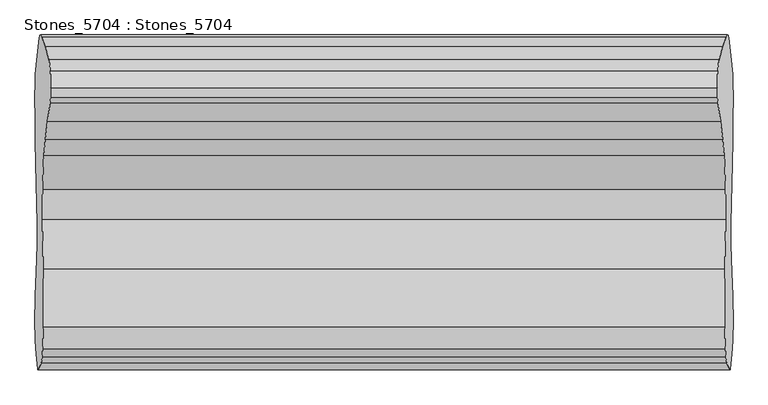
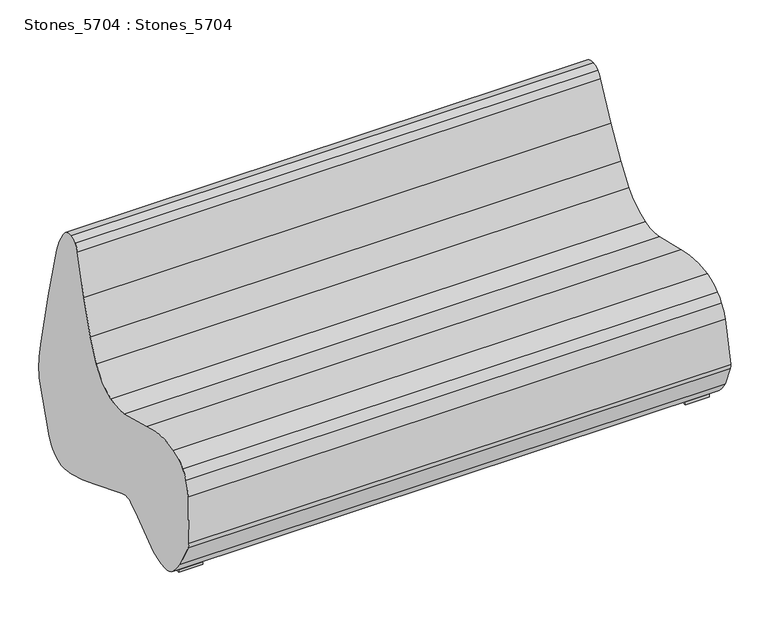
"""IFC4 building model written with IfcOpenShell, lengths in millimetres: furniture geometry, Stones_5704 : Stones_5704."""

from ifc_helpers import new_model, si_unit, frame, origin, origin_with_axes, place, context, project, spatial, polyline, ellipse_curve, outline, extrude, source, transform, mapped, element, save
from ifc_brep_helpers import plane_surface, cylinder_surface, revolved_surface, advanced_brep


def stones_5704_stones_5704_b2d92260(model_context):
    return source(origin(), model_context, "Body", "SolidModel", [
        advanced_brep(
        [(895.3110174, -89.4815743, 39.7011175), (895.8233895, -98.5477213, 29.9244759), (-895.8233895, -98.5477213, 29.9244759), (-895.3110174, -89.4815743, 39.7011175), (894.2904864, -76.3119844, 59.1740089), (-894.2904864, -76.3119844, 59.1740089), (886.0286103, -5.8199936, 216.8199959), (-886.0286103, -5.8199936, 216.8199959), (884.5680628, 0.0, 244.6889021), (-884.5680628, 0.0, 244.6889021), (880.1478804, -3.4330027, 329.0310064), (-880.1478804, -3.4330027, 329.0310064), (870.5753916, -30.0880254, 511.6849737), (-870.5753916, -30.0880254, 511.6849737), (861.4227412, -61.5019873, 686.3279474), (-861.4227412, -61.5019873, 686.3279474), (857.7210736, -90.9500081, 756.9599733), (-857.7210736, -90.9500081, 756.9599733), (856.513597, -134.8483783, 780.0), (-856.513597, -134.8483783, 780.0), (857.0881683, -159.273999, 769.0365254), (-857.0881683, -159.273999, 769.0365254), (858.2353507, -173.6870001, 747.1469822), (-858.2353507, -173.6870001, 747.1469822), (864.8943365, -221.2533235, 620.0859628), (-864.8943365, -221.2533235, 620.0859628), (870.5063431, -267.1055076, 513.0024987), (-870.5063431, -267.1055076, 513.0024987), (874.0739166, -308.3042284, 444.9291411), (-874.0739166, -308.3042284, 444.9291411), (877.5681088, -395.6820072, 378.2559814), (-877.5681088, -395.6820072, 378.2559814), (877.8416238, -473.037008, 373.0370049), (-877.8416238, -473.037008, 373.0370049), (876.1026296, -599.6220026, 406.2189912), (-876.1026296, -599.6220026, 406.2189912), (875.7171703, -749.4260037, 413.5739928), (-875.7171703, -749.4260037, 413.5739928), (877.3106294, -805.643993, 383.168981), (-877.3106294, -805.643993, 383.168981), (878.6924678, -825.7290327, 356.8019341), (-878.6924678, -825.7290327, 356.8019341), (881.1027502, -843.0850216, 310.8110066), (-881.1027502, -843.0850216, 310.8110066), (888.9563767, -860.0, 160.9548844), (-888.9563767, -860.0, 160.9548844), (889.8386269, -857.073153, 144.1205484), (-889.8386269, -857.073153, 144.1205484), (893.9128025, -819.9294051, 66.3806469), (-893.9128025, -819.9294051, 66.3806469), (896.2895288, -783.4470012, 21.0300072), (-896.2895288, -783.4470012, 21.0300072), (897.1718138, -739.5440124, 4.1950079), (-897.1718138, -739.5440124, 4.1950079), (896.2520049, -670.8280033, 21.746007), (-896.2520049, -670.8280033, 21.746007), (893.0613141, -575.6870128, 82.6280143), (-893.0613141, -575.6870128, 82.6280143), (891.7174739, -534.5275066, 108.2700129), (-891.7174739, -534.5275066, 108.2700129), (891.4466827, -504.6660086, 113.4370167), (-891.4466827, -504.6660086, 113.4370167), (891.6770162, -484.561163, 109.0419911), (-891.6770162, -484.561163, 109.0419911), (894.7945968, -330.1980137, 49.5550103), (-894.7945968, -330.1980137, 49.5550103), (896.8694213, -206.3195893, 9.9649997), (-896.8694213, -206.3195893, 9.9649997), (897.200074, -168.3434362, 3.6557696), (-897.200074, -168.3434362, 3.6557696)],
        [
            (0, 1, ellipse_curve(frame((892.1171071, -165.0055036, 100.6445574), z_axis=(-0.998629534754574, 0.0, -0.05233595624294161), x_axis=(0.05233595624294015, 0.0, -0.998629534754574)), 97.1793904, 97.0462094)),
            (1, 2),
            (2, 3, ellipse_curve(frame((-892.1171071, -165.0055036, 100.6445574), z_axis=(0.9986295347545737, 0.0, -0.052335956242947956), x_axis=(0.05233595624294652, 0.0, 0.9986295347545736)), 97.1793904, 97.0462094)),
            (3, 0),
            (4, 0, ellipse_curve(frame((890.7175279, -198.1002691, 127.3501177), z_axis=(-0.998629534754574, 0.0, -0.05233595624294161), x_axis=(0.05233595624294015, 0.0, -0.998629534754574)), 139.7636305, 139.5720893)),
            (3, 5, ellipse_curve(frame((-890.7175279, -198.1002691, 127.3501177), z_axis=(0.9986295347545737, 0.0, -0.052335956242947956), x_axis=(0.05233595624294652, 0.0, 0.9986295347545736)), 139.7636305, 139.5720893)),
            (5, 4),
            (6, 4, ellipse_curve(frame((869.6555626, -916.0209114, 529.2363581), z_axis=(-0.998629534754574, 0.0, -0.05233595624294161), x_axis=(0.05233595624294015, 0.0, -0.998629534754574)), 963.645793, 962.3251499)),
            (5, 7, ellipse_curve(frame((-869.6555626, -916.0209114, 529.2363581), z_axis=(0.9986295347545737, 0.0, -0.052335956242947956), x_axis=(0.05233595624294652, 0.0, 0.9986295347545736)), 963.645793, 962.3251499)),
            (7, 6),
            (8, 6, ellipse_curve(frame((884.0823172, -114.0171861, 253.9574813), z_axis=(-0.998629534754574, 0.0, -0.05233595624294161), x_axis=(0.05233595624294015, 0.0, -0.998629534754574)), 114.5502793, 114.3932922)),
            (7, 9, ellipse_curve(frame((-884.0823172, -114.0171861, 253.9574813), z_axis=(0.9986295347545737, 0.0, -0.052335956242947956), x_axis=(0.05233595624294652, 0.0, 0.9986295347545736)), 114.5502793, 114.3932922)),
            (9, 8),
            (10, 8, ellipse_curve(frame((883.0929265, -346.2529959, 272.8361791), z_axis=(-0.998629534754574, 0.0, -0.05233595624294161), x_axis=(0.05233595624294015, 0.0, -0.998629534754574)), 347.8719196, 347.3951732)),
            (9, 11, ellipse_curve(frame((-883.0929265, -346.2529959, 272.8361791), z_axis=(0.9986295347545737, 0.0, -0.052335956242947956), x_axis=(0.05233595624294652, 0.0, 0.9986295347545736)), 347.8719196, 347.3951732)),
            (11, 10),
            (12, 10, ellipse_curve(frame((835.6022598, 5181.9287288, 1179.012083), z_axis=(0.998629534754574, 0.0, 0.05233595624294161), x_axis=(-0.05233595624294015, 0.0, 0.998629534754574)), 5261.7752024, 5254.5641224)),
            (11, 13, ellipse_curve(frame((-835.6022598, 5181.9287288, 1179.012083), z_axis=(-0.9986295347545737, 0.0, 0.052335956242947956), x_axis=(-0.05233595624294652, 0.0, -0.9986295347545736)), 5261.7752024, 5254.5641224)),
            (13, 12),
            (14, 12, ellipse_curve(frame((882.2440724, -1769.0618125, 289.0332815), z_axis=(-0.998629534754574, 0.0, -0.05233595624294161), x_axis=(0.05233595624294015, 0.0, -0.998629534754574)), 1755.5755444, 1753.1695892)),
            (13, 15, ellipse_curve(frame((-882.2440724, -1769.0618125, 289.0332815), z_axis=(0.9986295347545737, 0.0, -0.052335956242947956), x_axis=(0.05233595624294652, 0.0, 0.9986295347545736)), 1755.5755444, 1753.1695892)),
            (15, 14),
            (16, 14, ellipse_curve(frame((864.1661541, -286.4896035, 633.9805107), z_axis=(-0.998629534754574, 0.0, -0.05233595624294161), x_axis=(0.05233595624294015, 0.0, -0.998629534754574)), 231.3141543, 230.9971463)),
            (15, 17, ellipse_curve(frame((-864.1661541, -286.4896035, 633.9805107), z_axis=(0.9986295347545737, 0.0, -0.052335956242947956), x_axis=(0.05233595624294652, 0.0, 0.9986295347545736)), 231.3141543, 230.9971463)),
            (17, 16),
            (18, 16, ellipse_curve(frame((859.0984884, -132.7398879, 730.6773325), z_axis=(-0.998629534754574, 0.0, -0.05233595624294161), x_axis=(0.05233595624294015, 0.0, -0.998629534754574)), 49.4354644, 49.3677148)),
            (17, 19, ellipse_curve(frame((-859.0984884, -132.7398879, 730.6773325), z_axis=(0.9986295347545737, 0.0, -0.052335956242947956), x_axis=(0.05233595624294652, 0.0, 0.9986295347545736)), 49.4354644, 49.3677148)),
            (19, 18),
            (20, 18, ellipse_curve(frame((858.4071949, -133.3037746, 743.8679997), z_axis=(-0.998629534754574, 0.0, -0.05233595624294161), x_axis=(0.05233595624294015, 0.0, -0.998629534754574)), 36.2146312, 36.1650003)),
            (19, 21, ellipse_curve(frame((-858.4071949, -133.3037746, 743.8679997), z_axis=(0.9986295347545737, 0.0, -0.052335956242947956), x_axis=(0.05233595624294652, 0.0, 0.9986295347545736)), 36.2146312, 36.1650003)),
            (21, 20),
            (22, 20, ellipse_curve(frame((859.6530779, -108.7736674, 720.0951349), z_axis=(-0.998629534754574, 0.0, -0.05233595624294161), x_axis=(0.05233595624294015, 0.0, -0.998629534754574)), 70.4210659, 70.3245562)),
            (21, 23, ellipse_curve(frame((-859.6530779, -108.7736674, 720.0951349), z_axis=(0.9986295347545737, 0.0, -0.052335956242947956), x_axis=(0.05233595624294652, 0.0, 0.9986295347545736)), 70.4210659, 70.3245562)),
            (23, 22),
            (24, 22, ellipse_curve(frame((895.5639623, 1535.4743364, 34.8746403), z_axis=(-0.998629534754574, 0.0, -0.05233595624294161), x_axis=(0.05233595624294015, 0.0, -0.998629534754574)), 1854.17938, 1851.6382916)),
            (23, 25, ellipse_curve(frame((-895.5639623, 1535.4743364, 34.8746403), z_axis=(0.9986295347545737, 0.0, -0.052335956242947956), x_axis=(0.05233595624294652, 0.0, 0.9986295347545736)), 1854.17938, 1851.6382916)),
            (25, 24),
            (26, 24, ellipse_curve(frame((853.2587869, -887.7267892, 842.1054751), z_axis=(0.998629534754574, 0.0, 0.05233595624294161), x_axis=(-0.05233595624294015, 0.0, 0.998629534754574)), 703.445039, 702.4809921)),
            (25, 27, ellipse_curve(frame((-853.2587869, -887.7267892, 842.1054751), z_axis=(-0.9986295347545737, 0.0, 0.052335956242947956), x_axis=(-0.05233595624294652, 0.0, -0.9986295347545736)), 703.445039, 702.4809921)),
            (27, 26),
            (28, 26, ellipse_curve(frame((853.2587869, -887.7267892, 842.1054751), z_axis=(0.998629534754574, 0.0, 0.05233595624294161), x_axis=(-0.05233595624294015, 0.0, 0.998629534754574)), 703.445039, 702.4809921)),
            (27, 29, ellipse_curve(frame((-853.2587869, -887.7267892, 842.1054751), z_axis=(-0.9986295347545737, 0.0, 0.052335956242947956), x_axis=(-0.05233595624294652, 0.0, -0.9986295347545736)), 703.445039, 702.4809921)),
            (29, 28),
            (30, 28, ellipse_curve(frame((868.8673935, -453.2361586, 544.275519), z_axis=(0.998629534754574, 0.0, 0.05233595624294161), x_axis=(-0.05233595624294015, 0.0, 0.998629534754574)), 175.9538792, 175.7127405)),
            (29, 31, ellipse_curve(frame((-868.8673935, -453.2361586, 544.275519), z_axis=(-0.9986295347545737, 0.0, 0.052335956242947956), x_axis=(-0.05233595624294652, 0.0, -0.9986295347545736)), 175.9538792, 175.7127405)),
            (31, 30),
            (32, 30, ellipse_curve(frame((870.2751071, -443.9243084, 517.4147448), z_axis=(0.998629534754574, 0.0, 0.05233595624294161), x_axis=(-0.05233595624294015, 0.0, 0.998629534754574)), 147.4857996, 147.2836754)),
            (31, 33, ellipse_curve(frame((-870.2751071, -443.9243084, 517.4147448), z_axis=(-0.9986295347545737, 0.0, 0.052335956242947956), x_axis=(-0.05233595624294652, 0.0, -0.9986295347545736)), 147.4857996, 147.2836754)),
            (33, 32),
            (34, 32, ellipse_curve(frame((819.2373546, -247.5530042, 1491.2730764), z_axis=(0.998629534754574, 0.0, 0.05233595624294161), x_axis=(-0.05233595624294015, 0.0, 0.998629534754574)), 1142.30865, 1140.7431557)),
            (33, 35, ellipse_curve(frame((-819.2373546, -247.5530042, 1491.2730764), z_axis=(-0.9986295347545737, 0.0, 0.052335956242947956), x_axis=(-0.05233595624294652, 0.0, -0.9986295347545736)), 1142.30865, 1140.7431557)),
            (35, 34),
            (36, 34, ellipse_curve(frame((890.391966, -688.091325, 133.5622105), z_axis=(-0.998629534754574, 0.0, -0.05233595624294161), x_axis=(0.05233595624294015, 0.0, -0.998629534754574)), 287.0439394, 286.6505556)),
            (35, 37, ellipse_curve(frame((-890.391966, -688.091325, 133.5622105), z_axis=(0.9986295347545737, 0.0, -0.052335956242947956), x_axis=(0.05233595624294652, 0.0, 0.9986295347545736)), 287.0439394, 286.6505556)),
            (37, 36),
            (38, 36, ellipse_curve(frame((881.6340298, -724.6959368, 300.6735873), z_axis=(-0.998629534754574, 0.0, -0.05233595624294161), x_axis=(0.05233595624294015, 0.0, -0.998629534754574)), 115.7357626, 115.5771508)),
            (37, 39, ellipse_curve(frame((-881.6340298, -724.6959368, 300.6735873), z_axis=(0.9986295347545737, 0.0, -0.052335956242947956), x_axis=(0.05233595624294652, 0.0, 0.9986295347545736)), 115.7357626, 115.5771508)),
            (39, 38),
            (40, 38, ellipse_curve(frame((881.6340298, -724.6959368, 300.6735873), z_axis=(-0.998629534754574, 0.0, -0.05233595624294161), x_axis=(0.05233595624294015, 0.0, -0.998629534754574)), 115.7357626, 115.5771508)),
            (39, 41, ellipse_curve(frame((-881.6340298, -724.6959368, 300.6735873), z_axis=(0.9986295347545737, 0.0, -0.052335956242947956), x_axis=(0.05233595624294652, 0.0, 0.9986295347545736)), 115.7357626, 115.5771508)),
            (41, 40),
            (42, 40, ellipse_curve(frame((882.9854227, -678.2799832, 274.8874751), z_axis=(-0.998629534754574, 0.0, -0.05233595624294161), x_axis=(0.05233595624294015, 0.0, -0.998629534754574)), 168.9063177, 168.6748374)),
            (41, 43, ellipse_curve(frame((-882.9854227, -678.2799832, 274.8874751), z_axis=(0.9986295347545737, 0.0, -0.052335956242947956), x_axis=(0.05233595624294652, 0.0, 0.9986295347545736)), 168.9063177, 168.6748374)),
            (43, 42),
            (44, 42, ellipse_curve(frame((889.350579, -121.0881092, 153.4330579), z_axis=(-0.998629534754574, 0.0, -0.05233595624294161), x_axis=(0.05233595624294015, 0.0, -0.998629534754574)), 739.9642697, 738.9501744)),
            (43, 45, ellipse_curve(frame((-889.350579, -121.0881092, 153.4330579), z_axis=(0.9986295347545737, 0.0, -0.052335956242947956), x_axis=(0.05233595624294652, 0.0, 0.9986295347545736)), 739.9642697, 738.9501744)),
            (45, 44),
            (46, 44, ellipse_curve(frame((888.9815136, -812.8823189, 160.4752453), z_axis=(-0.998629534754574, 0.0, -0.05233595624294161), x_axis=(0.05233595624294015, 0.0, -0.998629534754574)), 47.1847874, 47.1201223)),
            (45, 47, ellipse_curve(frame((-888.9815136, -812.8823189, 160.4752453), z_axis=(0.9986295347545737, 0.0, -0.052335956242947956), x_axis=(0.05233595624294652, 0.0, 0.9986295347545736)), 47.1847874, 47.1201223)),
            (47, 46),
            (48, 46, ellipse_curve(frame((881.2406951, -413.7831485, 308.1788605), z_axis=(-0.998629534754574, 0.0, -0.05233595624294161), x_axis=(0.05233595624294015, 0.0, -0.998629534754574)), 473.3231464, 472.6744735)),
            (47, 49, ellipse_curve(frame((-881.2406951, -413.7831485, 308.1788605), z_axis=(0.9986295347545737, 0.0, -0.052335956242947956), x_axis=(0.05233595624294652, 0.0, 0.9986295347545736)), 473.3231464, 472.6744735)),
            (49, 48),
            (50, 48, ellipse_curve(frame((888.3398114, -641.3127469, 172.7196521), z_axis=(-0.998629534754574, 0.0, -0.05233595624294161), x_axis=(0.05233595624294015, 0.0, -0.998629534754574)), 208.1599849, 207.8747089)),
            (49, 51, ellipse_curve(frame((-888.3398114, -641.3127469, 172.7196521), z_axis=(0.9986295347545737, 0.0, -0.052335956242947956), x_axis=(0.05233595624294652, 0.0, 0.9986295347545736)), 208.1599849, 207.8747089)),
            (51, 50),
            (52, 50, ellipse_curve(frame((893.9056535, -740.8253182, 66.5170575), z_axis=(-0.998629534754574, 0.0, -0.05233595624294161), x_axis=(0.05233595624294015, 0.0, -0.998629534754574)), 62.4207651, 62.3352196)),
            (51, 53, ellipse_curve(frame((-893.9056535, -740.8253182, 66.5170575), z_axis=(0.9986295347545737, 0.0, -0.052335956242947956), x_axis=(0.05233595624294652, 0.0, 0.9986295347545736)), 62.4207651, 62.3352196)),
            (53, 52),
            (54, 52, ellipse_curve(frame((889.0046476, -742.7479694, 160.0338219), z_axis=(-0.998629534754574, 0.0, -0.05233595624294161), x_axis=(0.05233595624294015, 0.0, -0.998629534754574)), 156.0856562, 155.8717463)),
            (53, 55, ellipse_curve(frame((-889.0046476, -742.7479694, 160.0338219), z_axis=(0.9986295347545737, 0.0, -0.052335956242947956), x_axis=(0.05233595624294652, 0.0, 0.9986295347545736)), 156.0856562, 155.8717463)),
            (55, 54),
            (56, 54, ellipse_curve(frame((866.9297795, -961.8104094, 581.2473981), z_axis=(-0.998629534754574, 0.0, -0.05233595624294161), x_axis=(0.05233595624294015, 0.0, -0.998629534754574)), 631.5100276, 630.644565)),
            (55, 57, ellipse_curve(frame((-866.9297795, -961.8104094, 581.2473981), z_axis=(0.9986295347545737, 0.0, -0.052335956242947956), x_axis=(0.05233595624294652, 0.0, 0.9986295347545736)), 631.5100276, 630.644565)),
            (57, 56),
            (58, 56, ellipse_curve(frame((902.950332, -429.5654295, -106.0656895), z_axis=(0.998629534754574, 0.0, 0.05233595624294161), x_axis=(-0.05233595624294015, 0.0, 0.998629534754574)), 238.9838219, 238.6563029)),
            (57, 59, ellipse_curve(frame((-902.950332, -429.5654295, -106.0656895), z_axis=(-0.9986295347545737, 0.0, 0.052335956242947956), x_axis=(-0.05233595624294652, 0.0, -0.9986295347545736)), 238.9838219, 238.6563029)),
            (59, 58),
            (60, 58, ellipse_curve(frame((894.2623904, -510.7472969, 59.710113), z_axis=(0.998629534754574, 0.0, 0.05233595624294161), x_axis=(-0.05233595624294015, 0.0, 0.998629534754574)), 54.1441782, 54.0699755)),
            (59, 61, ellipse_curve(frame((-894.2623904, -510.7472969, 59.710113), z_axis=(-0.9986295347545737, 0.0, 0.052335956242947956), x_axis=(-0.05233595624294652, 0.0, -0.9986295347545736)), 54.1441782, 54.0699755)),
            (61, 60),
            (62, 60, ellipse_curve(frame((896.6830709, -515.9754163, 13.5207769), z_axis=(0.998629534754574, 0.0, 0.05233595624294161), x_axis=(-0.05233595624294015, 0.0, 0.998629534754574)), 100.6922476, 100.5542524)),
            (61, 63, ellipse_curve(frame((-896.6830709, -515.9754163, 13.5207769), z_axis=(-0.9986295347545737, 0.0, 0.052335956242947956), x_axis=(-0.05233595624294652, 0.0, -0.9986295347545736)), 100.6922476, 100.5542524)),
            (63, 62),
            (64, 62, ellipse_curve(frame((973.9029037, -1000.549303, -1459.9214079), z_axis=(0.998629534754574, 0.0, 0.05233595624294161), x_axis=(-0.05233595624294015, 0.0, 0.998629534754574)), 1653.8991091, 1651.6324979)),
            (63, 65, ellipse_curve(frame((-973.9029037, -1000.549303, -1459.9214079), z_axis=(-0.9986295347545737, 0.0, 0.052335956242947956), x_axis=(-0.05233595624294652, 0.0, -0.9986295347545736)), 1653.8991091, 1651.6324979)),
            (65, 64),
            (66, 64, ellipse_curve(frame((866.0602858, -86.7080041, 597.8383259), z_axis=(-0.998629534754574, 0.0, -0.05233595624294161), x_axis=(0.05233595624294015, 0.0, -0.998629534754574)), 600.7416057, 599.9183102)),
            (65, 67, ellipse_curve(frame((-866.0602858, -86.7080041, 597.8383259), z_axis=(0.9986295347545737, 0.0, -0.052335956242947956), x_axis=(0.05233595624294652, 0.0, 0.9986295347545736)), 600.7416057, 599.9183102)),
            (67, 66),
            (68, 66, ellipse_curve(frame((869.4749065, -99.964728, 532.6834804), z_axis=(-0.998629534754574, 0.0, -0.05233595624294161), x_axis=(0.05233595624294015, 0.0, -0.998629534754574)), 534.1605503, 533.4285018)),
            (67, 69, ellipse_curve(frame((-869.4749065, -99.964728, 532.6834804), z_axis=(0.9986295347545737, 0.0, -0.052335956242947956), x_axis=(0.05233595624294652, 0.0, 0.9986295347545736)), 534.1605503, 533.4285018)),
            (69, 68),
            (1, 68, ellipse_curve(frame((892.1171071, -165.0055036, 100.6445574), z_axis=(-0.998629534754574, 0.0, -0.05233595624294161), x_axis=(0.05233595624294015, 0.0, -0.998629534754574)), 97.1793904, 97.0462094)),
            (69, 2, ellipse_curve(frame((-892.1171071, -165.0055036, 100.6445574), z_axis=(0.9986295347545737, 0.0, -0.052335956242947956), x_axis=(0.05233595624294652, 0.0, 0.9986295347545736)), 97.1793904, 97.0462094)),
        ],
        [
            cylinder_surface(frame((-900.0, -165.0055036, 100.6445574), z_axis=(1.0, 0.0, 0.0), x_axis=(0.0, 1.0, 0.0)), 97.0462094),
            cylinder_surface(frame((-900.0, -198.1002691, 127.3501177), z_axis=(1.0, 0.0, 0.0), x_axis=(0.0, 1.0, 0.0)), 139.5720893),
            cylinder_surface(frame((-900.0, -916.0209114, 529.2363581), z_axis=(1.0, 0.0, 0.0), x_axis=(0.0, 1.0, 0.0)), 962.3251499),
            cylinder_surface(frame((-900.0, -114.0171861, 253.9574813), z_axis=(1.0, 0.0, 0.0), x_axis=(0.0, 1.0, 0.0)), 114.3932922),
            cylinder_surface(frame((-900.0, -346.2529959, 272.8361791), z_axis=(1.0, 0.0, 0.0), x_axis=(0.0, 1.0, 0.0)), 347.3951732),
            revolved_surface(polyline([(-1110.9822965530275, 10436.4928512, 1179.012083), (1110.9822965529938, 10436.4928512, 1179.012083)]), (-900.0, 5181.9287288, 1179.012083), (-1.0, 0.0, 0.0)),
            cylinder_surface(frame((-900.0, -1769.0618125, 289.0332815), z_axis=(1.0, 0.0, 0.0), x_axis=(0.0, 1.0, 0.0)), 1753.1695892),
            cylinder_surface(frame((-900.0, -286.4896035, 633.9805107), z_axis=(1.0, 0.0, 0.0), x_axis=(0.0, 1.0, 0.0)), 230.9971463),
            cylinder_surface(frame((-900.0, -132.7398879, 730.6773325), z_axis=(1.0, 0.0, 0.0), x_axis=(0.0, 1.0, 0.0)), 49.3677148),
            cylinder_surface(frame((-900.0, -133.3037746, 743.8679997), z_axis=(1.0, 0.0, 0.0), x_axis=(0.0, 1.0, 0.0)), 36.1650003),
            cylinder_surface(frame((-900.0, -108.7736674, 720.0951349), z_axis=(1.0, 0.0, 0.0), x_axis=(0.0, 1.0, 0.0)), 70.3245562),
            cylinder_surface(frame((-900.0, 1535.4743364, 34.8746403), z_axis=(1.0, 0.0, 0.0), x_axis=(0.0, 1.0, 0.0)), 1851.6382916),
            revolved_surface(polyline([(-890.0742556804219, -185.2457971, 842.1054751), (890.0742556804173, -185.2457971, 842.1054751)]), (-900.0, -887.7267892, 842.1054751), (-1.0, 0.0, 0.0)),
            revolved_surface(polyline([(-878.076108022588, -277.5234181, 544.275519), (878.076108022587, -277.5234181, 544.275519)]), (-900.0, -453.2361586, 544.275519), (-1.0, 0.0, 0.0)),
            revolved_surface(polyline([(-877.9939174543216, -296.640633, 517.4147448), (877.9939174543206, -296.640633, 517.4147448)]), (-900.0, -443.9243084, 517.4147448), (-1.0, 0.0, 0.0)),
            revolved_surface(polyline([(-879.0211701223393, 893.1901515, 1491.2730764), (879.021170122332, 893.1901515, 1491.2730764)]), (-900.0, -247.5530042, 1491.2730764), (-1.0, 0.0, 0.0)),
            cylinder_surface(frame((-900.0, -688.091325, 133.5622105), z_axis=(1.0, 0.0, 0.0), x_axis=(0.0, 1.0, 0.0)), 286.6505556),
            cylinder_surface(frame((-900.0, -724.6959368, 300.6735873), z_axis=(1.0, 0.0, 0.0), x_axis=(0.0, 1.0, 0.0)), 115.5771508),
            cylinder_surface(frame((-900.0, -678.2799832, 274.8874751), z_axis=(1.0, 0.0, 0.0), x_axis=(0.0, 1.0, 0.0)), 168.6748374),
            cylinder_surface(frame((-900.0, -121.0881092, 153.4330579), z_axis=(1.0, 0.0, 0.0), x_axis=(0.0, 1.0, 0.0)), 738.9501744),
            cylinder_surface(frame((-900.0, -812.8823189, 160.4752453), z_axis=(1.0, 0.0, 0.0), x_axis=(0.0, 1.0, 0.0)), 47.1201223),
            cylinder_surface(frame((-900.0, -413.7831485, 308.1788605), z_axis=(1.0, 0.0, 0.0), x_axis=(0.0, 1.0, 0.0)), 472.6744735),
            cylinder_surface(frame((-900.0, -641.3127469, 172.7196521), z_axis=(1.0, 0.0, 0.0), x_axis=(0.0, 1.0, 0.0)), 207.8747089),
            cylinder_surface(frame((-900.0, -740.8253182, 66.5170575), z_axis=(1.0, 0.0, 0.0), x_axis=(0.0, 1.0, 0.0)), 62.3352196),
            cylinder_surface(frame((-900.0, -742.7479694, 160.0338219), z_axis=(1.0, 0.0, 0.0), x_axis=(0.0, 1.0, 0.0)), 155.8717463),
            cylinder_surface(frame((-900.0, -961.8104094, 581.2473981), z_axis=(1.0, 0.0, 0.0), x_axis=(0.0, 1.0, 0.0)), 630.644565),
            revolved_surface(polyline([(-915.4577788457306, -190.9091266, -106.0656895), (915.4577788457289, -190.9091266, -106.0656895)]), (-900.0, -429.5654295, -106.0656895), (-1.0, 0.0, 0.0)),
            revolved_surface(polyline([(-897.0960777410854, -456.6773214, 59.710113), (897.0960777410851, -456.6773214, 59.710113)]), (-900.0, -510.7472969, 59.710113), (-1.0, 0.0, 0.0)),
            revolved_surface(polyline([(-901.9528959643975, -415.4211639, 13.5207769), (901.9528959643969, -415.4211639, 13.5207769)]), (-900.0, -515.9754163, 13.5207769), (-1.0, 0.0, 0.0)),
            revolved_surface(polyline([(-1060.4612951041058, 651.0831949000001, -1459.9214079), (1060.4612951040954, 651.0831949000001, -1459.9214079)]), (-900.0, -1000.549303, -1459.9214079), (-1.0, 0.0, 0.0)),
            cylinder_surface(frame((-900.0, -86.7080041, 597.8383259), z_axis=(1.0, 0.0, 0.0), x_axis=(0.0, 1.0, 0.0)), 599.9183102),
            cylinder_surface(frame((-900.0, -99.964728, 532.6834804), z_axis=(1.0, 0.0, 0.0), x_axis=(0.0, 1.0, 0.0)), 533.4285018),
            plane_surface(frame((854.9293098, -973.7922951, 810.2299995), z_axis=(0.998629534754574, 0.0, 0.05233595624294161), x_axis=(0.0, 1.0, 0.0))),
            plane_surface(frame((-900.0, -973.7922951, -49.7700005), z_axis=(-0.9986295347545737, 0.0, 0.052335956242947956), x_axis=(0.0, 1.0, 0.0))),
        ],
        [
            (0, [[1, 2, 3, 4]]),
            (1, [[5, -4, 6, 7]]),
            (2, [[8, -7, 9, 10]]),
            (3, [[11, -10, 12, 13]]),
            (4, [[14, -13, 15, 16]]),
            (5, [[17, -16, 18, 19]]),
            (6, [[20, -19, 21, 22]]),
            (7, [[23, -22, 24, 25]]),
            (8, [[26, -25, 27, 28]]),
            (9, [[29, -28, 30, 31]]),
            (10, [[32, -31, 33, 34]]),
            (11, [[35, -34, 36, 37]]),
            (12, [[38, -37, 39, 40]]),
            (12, [[41, -40, 42, 43]]),
            (13, [[44, -43, 45, 46]]),
            (14, [[47, -46, 48, 49]]),
            (15, [[50, -49, 51, 52]]),
            (16, [[53, -52, 54, 55]]),
            (17, [[56, -55, 57, 58]]),
            (17, [[59, -58, 60, 61]]),
            (18, [[62, -61, 63, 64]]),
            (19, [[65, -64, 66, 67]]),
            (20, [[68, -67, 69, 70]]),
            (21, [[71, -70, 72, 73]]),
            (22, [[74, -73, 75, 76]]),
            (23, [[77, -76, 78, 79]]),
            (24, [[80, -79, 81, 82]]),
            (25, [[83, -82, 84, 85]]),
            (26, [[86, -85, 87, 88]]),
            (27, [[89, -88, 90, 91]]),
            (28, [[92, -91, 93, 94]]),
            (29, [[95, -94, 96, 97]]),
            (30, [[98, -97, 99, 100]]),
            (31, [[101, -100, 102, 103]]),
            (0, [[104, -103, 105, -2]]),
            (32, [[-1, -5, -8, -11, -14, -17, -20, -23, -26, -29, -32, -35, -38, -41, -44, -47, -50, -53, -56, -59, -62, -65, -68, -71, -74, -77, -80, -83, -86, -89, -92, -95, -98, -101, -104]]),
            (33, [[-3, -105, -102, -99, -96, -93, -90, -87, -84, -81, -78, -75, -72, -69, -66, -63, -60, -57, -54, -51, -48, -45, -42, -39, -36, -33, -30, -27, -24, -21, -18, -15, -12, -9, -6]]),
        ],
    ),
        extrude(outline(polyline([(-791.5960021, -193.5539924), (-871.2620151, -193.5539924), (-871.2620151, -136.2250062), (-791.5960021, -136.2250062), (-791.5960021, -193.5539924)])), origin_with_axes(), (0.0, 0.0, 1.0), 10.0),
        extrude(outline(polyline([(791.5960021, -193.5539924), (791.5960021, -136.2250062), (871.2620151, -136.2250062), (871.2620151, -193.5539924), (791.5960021, -193.5539924)])), origin_with_axes(), (0.0, 0.0, 1.0), 10.0),
        extrude(outline(polyline([(-791.5960021, -770.6035083), (-871.2620151, -770.6035083), (-871.2620151, -713.2745221), (-791.5960021, -713.2745221), (-791.5960021, -770.6035083)])), origin_with_axes(), (0.0, 0.0, 1.0), 10.0),
        extrude(outline(polyline([(791.5960021, -770.6035083), (791.5960021, -713.2745221), (871.2620151, -713.2745221), (871.2620151, -770.6035083), (791.5960021, -770.6035083)])), origin_with_axes(), (0.0, 0.0, 1.0), 10.0),
    ])


if __name__ == "__main__":
    model = new_model("IFC4")
    model_context = context("Model", 3, world=origin())
    ifc_project = project(units=[si_unit("LENGTHUNIT", "METRE", prefix="MILLI")], contexts=[model_context])
    site = spatial("IfcSite", under=ifc_project)
    building = spatial("IfcBuilding", under=site)
    placement = place(None, origin())
    stones_5704_stones_5704_shape = stones_5704_stones_5704_b2d92260(model_context)
    element("IfcFurniture", 1, ObjectType="Stones_5704 : Stones_5704", at=placement, inside=building, context=model_context, shape_type="MappedRepresentation", body=[
        mapped(stones_5704_stones_5704_shape, transform((0.0, 0.0, 0.0), x_axis=(1.0, 0.0, 0.0), y_axis=(0.0, 1.0, 0.0), z_axis=(0.0, 0.0, 1.0))),
    ])
    save(model, "model.ifc")
